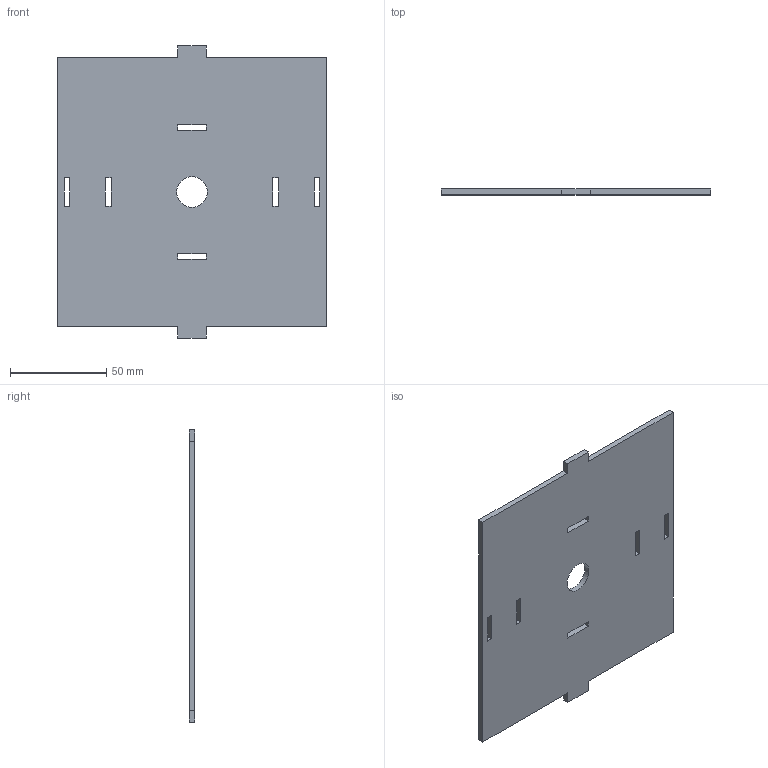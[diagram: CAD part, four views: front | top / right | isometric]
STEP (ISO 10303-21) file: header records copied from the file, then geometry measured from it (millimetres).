
FILE_DESCRIPTION(/* description */ (''),/* implementation_level */ '2;1');
FILE_NAME(/* name */ 'Rear Mid.step',/* time_stamp */ '2023-08-12T23:52:39+03:00',/* author */ (''),/* organization */ (''),/* preprocessor_version */ 'ST-DEVELOPER v20',/* originating_system */ 'Autodesk Translation Framework v12.9.0.99',/* authorisation */ '');
FILE_SCHEMA (('AUTOMOTIVE_DESIGN { 1 0 10303 214 3 1 1 }'));
Length unit declared in the file: millimetre
Products named in the file (1): Rear Mid
Bounding box: 140 x 3 x 152 mm (x, y, z)
Volume: 57926.8 mm3; surface area: 41168.7 mm2
Topology: 1 solids, 1 shells, 39 faces, 111 edges, 74 vertices
Faces by surface type: plane 38, cylinder 1
Full cylindrical faces by diameter (mm): 16 x1
Entity records: 1308 total; most frequent: CARTESIAN_POINT 225, ORIENTED_EDGE 222, DIRECTION 193, EDGE_CURVE 111, LINE 109, VECTOR 109, VERTEX_POINT 74, EDGE_LOOP 53
